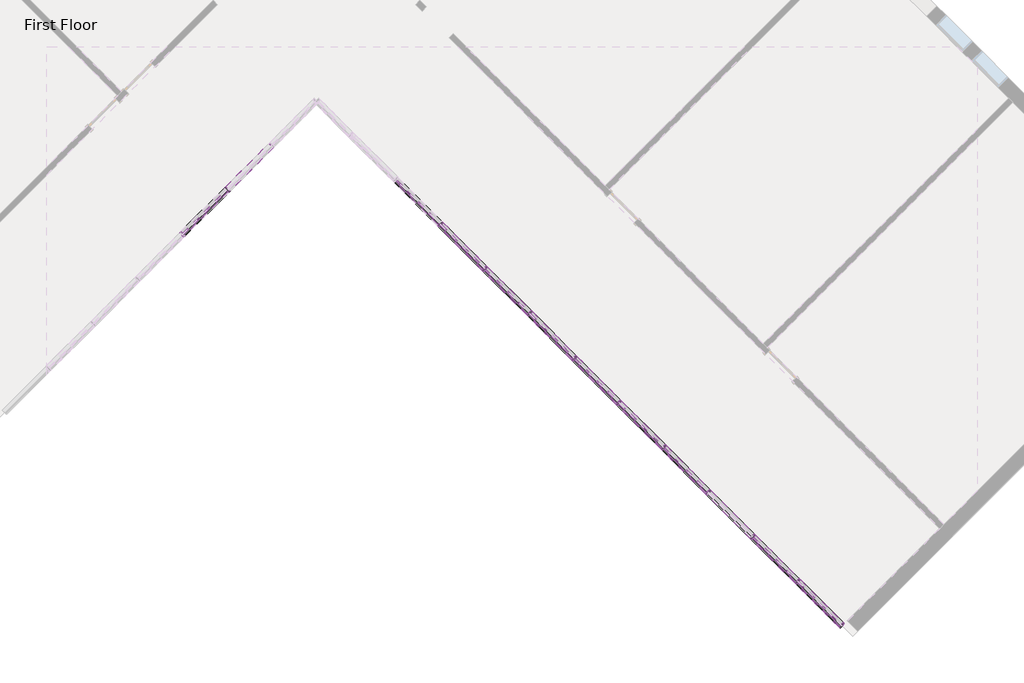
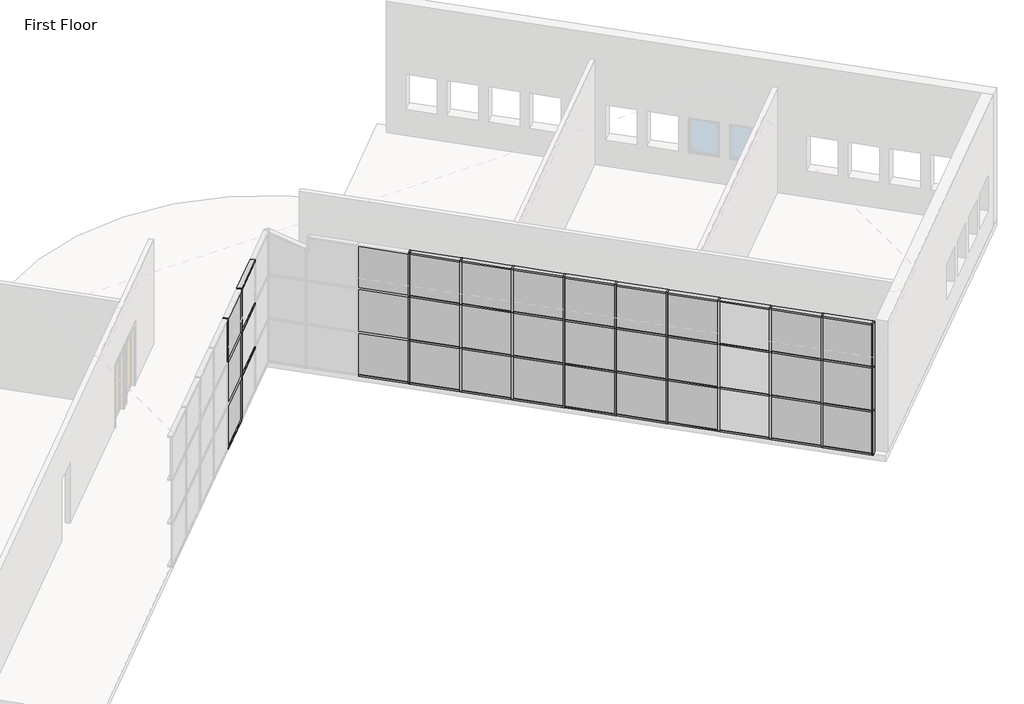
# One storey, part 2 of 4: 75 members, 30 plates.
"""IFC4 building model written with IfcOpenShell, lengths in millimetres."""

from ifc_helpers import new_model, si_unit, origin, place, context, project, spatial, transform, mapped, element, save
from components import rectangular_mullion_50_x_150mm_20f04808, rectangular_mullion_50_x_150mm_40297ad3, rectangular_mullion_50_x_150mm_25842354, rectangular_mullion_50_x_150mm_f494fff1, rectangular_mullion_50_x_150mm_5da8f88f, rectangular_mullion_50_x_150mm_4d330a12, system_panel_glazed_3c3c243d, system_panel_glazed_a417ca2b, system_panel_glazed_437d720c, system_panel_glazed_7c4ff273, system_panel_solid_49e066f7, system_panel_solid_a570f427

model = new_model("IFC4")

# Units and contexts
model_context = context("Model", 3, world=origin())
ifc_project = project(units=[si_unit("LENGTHUNIT", "METRE", prefix="MILLI")], contexts=[model_context])

# Site, building, storey
site = spatial("IfcSite", under=ifc_project)
building = spatial("IfcBuilding", under=site)
storey = spatial("IfcBuildingStorey", under=building, Name="First Floor", Elevation=0.0)

# Members
placement = place(None, origin())
rectangular_mullion_50_x_150mm_shape = rectangular_mullion_50_x_150mm_20f04808(model_context)
element("IfcMember", 1, ObjectType="Rectangular Mullion : 50 x 150mm", at=placement, inside=storey, context=model_context, shape_type="MappedRepresentation", body=[
    mapped(rectangular_mullion_50_x_150mm_shape, transform((11047.480406, -10654.0737858, 0.0), x_axis=(0.0, 0.0, -1.0), y_axis=(0.7071067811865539, 0.7071067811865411, 0.0), z_axis=(0.7071067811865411, -0.7071067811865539, 0.0))),
])
rectangular_mullion_50_x_150mm_2_shape = rectangular_mullion_50_x_150mm_40297ad3(model_context)
element("IfcMember", 2, ObjectType="Rectangular Mullion : 50 x 150mm", at=placement, inside=storey, context=model_context, shape_type="MappedRepresentation", body=[
    mapped(rectangular_mullion_50_x_150mm_2_shape, transform((-3756.5071652, -160.6091532, 0.0), x_axis=(-0.7071067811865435, -0.7071067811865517, 0.0), y_axis=(-0.7071067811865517, 0.7071067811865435, 0.0), z_axis=(0.0, 0.0, -1.0))),
])
element("IfcMember", 3, ObjectType="Rectangular Mullion : 50 x 150mm", at=placement, inside=storey, context=model_context, shape_type="MappedRepresentation", body=[
    mapped(rectangular_mullion_50_x_150mm_2_shape, transform((10005.2050103, -9611.7983901, 0.0), x_axis=(-0.7071067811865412, 0.7071067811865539, 0.0), y_axis=(0.7071067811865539, 0.7071067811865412, 0.0), z_axis=(0.0, 0.0, -1.0))),
])
element("IfcMember", 4, ObjectType="Rectangular Mullion : 50 x 150mm", at=placement, inside=storey, context=model_context, shape_type="MappedRepresentation", body=[
    mapped(rectangular_mullion_50_x_150mm_2_shape, transform((8927.5742757, -8534.1676556, 0.0), x_axis=(-0.7071067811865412, 0.7071067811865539, 0.0), y_axis=(0.7071067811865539, 0.7071067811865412, 0.0), z_axis=(0.0, 0.0, -1.0))),
])
element("IfcMember", 5, ObjectType="Rectangular Mullion : 50 x 150mm", at=placement, inside=storey, context=model_context, shape_type="MappedRepresentation", body=[
    mapped(rectangular_mullion_50_x_150mm_2_shape, transform((7849.9435412, -7456.536921, 0.0), x_axis=(-0.7071067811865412, 0.7071067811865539, 0.0), y_axis=(0.7071067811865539, 0.7071067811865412, 0.0), z_axis=(0.0, 0.0, -1.0))),
])
element("IfcMember", 6, ObjectType="Rectangular Mullion : 50 x 150mm", at=placement, inside=storey, context=model_context, shape_type="MappedRepresentation", body=[
    mapped(rectangular_mullion_50_x_150mm_2_shape, transform((6772.3128067, -6378.9061865, 0.0), x_axis=(-0.7071067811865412, 0.7071067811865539, 0.0), y_axis=(0.7071067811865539, 0.7071067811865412, 0.0), z_axis=(0.0, 0.0, -1.0))),
])
element("IfcMember", 7, ObjectType="Rectangular Mullion : 50 x 150mm", at=placement, inside=storey, context=model_context, shape_type="MappedRepresentation", body=[
    mapped(rectangular_mullion_50_x_150mm_2_shape, transform((5694.6820722, -5301.275452, 0.0), x_axis=(-0.7071067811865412, 0.7071067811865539, 0.0), y_axis=(0.7071067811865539, 0.7071067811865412, 0.0), z_axis=(0.0, 0.0, -1.0))),
])
element("IfcMember", 8, ObjectType="Rectangular Mullion : 50 x 150mm", at=placement, inside=storey, context=model_context, shape_type="MappedRepresentation", body=[
    mapped(rectangular_mullion_50_x_150mm_2_shape, transform((4617.0513376, -4223.6447175, 0.0), x_axis=(-0.7071067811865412, 0.7071067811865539, 0.0), y_axis=(0.7071067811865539, 0.7071067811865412, 0.0), z_axis=(0.0, 0.0, -1.0))),
])
element("IfcMember", 9, ObjectType="Rectangular Mullion : 50 x 150mm", at=placement, inside=storey, context=model_context, shape_type="MappedRepresentation", body=[
    mapped(rectangular_mullion_50_x_150mm_2_shape, transform((3539.4206031, -3146.0139829, 0.0), x_axis=(-0.7071067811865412, 0.7071067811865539, 0.0), y_axis=(0.7071067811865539, 0.7071067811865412, 0.0), z_axis=(0.0, 0.0, -1.0))),
])
element("IfcMember", 10, ObjectType="Rectangular Mullion : 50 x 150mm", at=placement, inside=storey, context=model_context, shape_type="MappedRepresentation", body=[
    mapped(rectangular_mullion_50_x_150mm_2_shape, transform((2461.7898686, -2068.3832484, 0.0), x_axis=(-0.7071067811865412, 0.7071067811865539, 0.0), y_axis=(0.7071067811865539, 0.7071067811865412, 0.0), z_axis=(0.0, 0.0, -1.0))),
])
element("IfcMember", 11, ObjectType="Rectangular Mullion : 50 x 150mm", at=placement, inside=storey, context=model_context, shape_type="MappedRepresentation", body=[
    mapped(rectangular_mullion_50_x_150mm_2_shape, transform((1384.159134, -990.7525139, 0.0), x_axis=(-0.7071067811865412, 0.7071067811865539, 0.0), y_axis=(0.7071067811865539, 0.7071067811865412, 0.0), z_axis=(0.0, 0.0, -1.0))),
])
rectangular_mullion_50_x_150mm_3_shape = rectangular_mullion_50_x_150mm_25842354(model_context)
element("IfcMember", 12, ObjectType="Rectangular Mullion : 50 x 150mm", at=placement, inside=storey, context=model_context, shape_type="MappedRepresentation", body=[
    mapped(rectangular_mullion_50_x_150mm_3_shape, transform((10022.8826798, -9629.4760596, 1524.0), x_axis=(0.0, 0.0, 1.0), y_axis=(0.7071067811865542, 0.7071067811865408, 0.0), z_axis=(-0.7071067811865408, 0.7071067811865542, 0.0))),
])
element("IfcMember", 13, ObjectType="Rectangular Mullion : 50 x 150mm", at=placement, inside=storey, context=model_context, shape_type="MappedRepresentation", body=[
    mapped(rectangular_mullion_50_x_150mm_3_shape, transform((10022.8826798, -9629.4760596, 3048.0), x_axis=(0.0, 0.0, 1.0), y_axis=(0.7071067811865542, 0.7071067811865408, 0.0), z_axis=(-0.7071067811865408, 0.7071067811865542, 0.0))),
])
rectangular_mullion_50_x_150mm_4_shape = rectangular_mullion_50_x_150mm_f494fff1(model_context)
element("IfcMember", 14, ObjectType="Rectangular Mullion : 50 x 150mm", at=placement, inside=storey, context=model_context, shape_type="MappedRepresentation", body=[
    mapped(rectangular_mullion_50_x_150mm_4_shape, transform((-3738.8294957, -142.9314837, 1524.0), x_axis=(0.0, 0.0, 1.0), y_axis=(-0.7071067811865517, 0.7071067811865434, 0.0), z_axis=(-0.7071067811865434, -0.7071067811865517, 0.0))),
])
element("IfcMember", 15, ObjectType="Rectangular Mullion : 50 x 150mm", at=placement, inside=storey, context=model_context, shape_type="MappedRepresentation", body=[
    mapped(rectangular_mullion_50_x_150mm_4_shape, transform((-3738.8294957, -142.9314837, 3048.0), x_axis=(0.0, 0.0, 1.0), y_axis=(-0.7071067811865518, 0.7071067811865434, 0.0), z_axis=(-0.7071067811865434, -0.7071067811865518, 0.0))),
])
element("IfcMember", 16, ObjectType="Rectangular Mullion : 50 x 150mm", at=placement, inside=storey, context=model_context, shape_type="MappedRepresentation", body=[
    mapped(rectangular_mullion_50_x_150mm_4_shape, transform((8945.2519453, -8551.8453251, 1524.0), x_axis=(0.0, 0.0, 1.0), y_axis=(0.7071067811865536, 0.7071067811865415, 0.0), z_axis=(-0.7071067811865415, 0.7071067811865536, 0.0))),
])
element("IfcMember", 17, ObjectType="Rectangular Mullion : 50 x 150mm", at=placement, inside=storey, context=model_context, shape_type="MappedRepresentation", body=[
    mapped(rectangular_mullion_50_x_150mm_4_shape, transform((7867.6212107, -7474.2145906, 1524.0), x_axis=(0.0, 0.0, 1.0), y_axis=(0.7071067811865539, 0.7071067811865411, 0.0), z_axis=(-0.7071067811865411, 0.7071067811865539, 0.0))),
])
element("IfcMember", 18, ObjectType="Rectangular Mullion : 50 x 150mm", at=placement, inside=storey, context=model_context, shape_type="MappedRepresentation", body=[
    mapped(rectangular_mullion_50_x_150mm_4_shape, transform((6789.9904762, -6396.5838561, 1524.0), x_axis=(0.0, 0.0, 1.0), y_axis=(0.7071067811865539, 0.7071067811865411, 0.0), z_axis=(-0.7071067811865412, 0.707106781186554, 0.0))),
])
element("IfcMember", 19, ObjectType="Rectangular Mullion : 50 x 150mm", at=placement, inside=storey, context=model_context, shape_type="MappedRepresentation", body=[
    mapped(rectangular_mullion_50_x_150mm_4_shape, transform((5712.3597417, -5318.9531215, 1524.0), x_axis=(0.0, 0.0, 1.0), y_axis=(0.7071067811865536, 0.7071067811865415, 0.0), z_axis=(-0.7071067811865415, 0.7071067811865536, 0.0))),
])
element("IfcMember", 20, ObjectType="Rectangular Mullion : 50 x 150mm", at=placement, inside=storey, context=model_context, shape_type="MappedRepresentation", body=[
    mapped(rectangular_mullion_50_x_150mm_4_shape, transform((4634.7290072, -4241.322387, 1524.0), x_axis=(0.0, 0.0, 1.0), y_axis=(0.7071067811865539, 0.7071067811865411, 0.0), z_axis=(-0.7071067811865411, 0.7071067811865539, 0.0))),
])
element("IfcMember", 21, ObjectType="Rectangular Mullion : 50 x 150mm", at=placement, inside=storey, context=model_context, shape_type="MappedRepresentation", body=[
    mapped(rectangular_mullion_50_x_150mm_4_shape, transform((3557.0982726, -3163.6916525, 1524.0), x_axis=(0.0, 0.0, 1.0), y_axis=(0.7071067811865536, 0.7071067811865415, 0.0), z_axis=(-0.7071067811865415, 0.7071067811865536, 0.0))),
])
element("IfcMember", 22, ObjectType="Rectangular Mullion : 50 x 150mm", at=placement, inside=storey, context=model_context, shape_type="MappedRepresentation", body=[
    mapped(rectangular_mullion_50_x_150mm_4_shape, transform((2479.4675381, -2086.0609179, 1524.0), x_axis=(0.0, 0.0, 1.0), y_axis=(0.7071067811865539, 0.7071067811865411, 0.0), z_axis=(-0.7071067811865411, 0.7071067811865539, 0.0))),
])
element("IfcMember", 23, ObjectType="Rectangular Mullion : 50 x 150mm", at=placement, inside=storey, context=model_context, shape_type="MappedRepresentation", body=[
    mapped(rectangular_mullion_50_x_150mm_4_shape, transform((1401.8368036, -1008.4301834, 1524.0), x_axis=(0.0, 0.0, 1.0), y_axis=(0.7071067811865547, 0.7071067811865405, 0.0), z_axis=(-0.7071067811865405, 0.7071067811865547, 0.0))),
])
element("IfcMember", 24, ObjectType="Rectangular Mullion : 50 x 150mm", at=placement, inside=storey, context=model_context, shape_type="MappedRepresentation", body=[
    mapped(rectangular_mullion_50_x_150mm_4_shape, transform((8945.2519453, -8551.8453251, 3048.0), x_axis=(0.0, 0.0, 1.0), y_axis=(0.7071067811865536, 0.7071067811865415, 0.0), z_axis=(-0.7071067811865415, 0.7071067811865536, 0.0))),
])
element("IfcMember", 25, ObjectType="Rectangular Mullion : 50 x 150mm", at=placement, inside=storey, context=model_context, shape_type="MappedRepresentation", body=[
    mapped(rectangular_mullion_50_x_150mm_4_shape, transform((7867.6212107, -7474.2145906, 3048.0), x_axis=(0.0, 0.0, 1.0), y_axis=(0.7071067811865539, 0.7071067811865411, 0.0), z_axis=(-0.7071067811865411, 0.7071067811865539, 0.0))),
])
element("IfcMember", 26, ObjectType="Rectangular Mullion : 50 x 150mm", at=placement, inside=storey, context=model_context, shape_type="MappedRepresentation", body=[
    mapped(rectangular_mullion_50_x_150mm_4_shape, transform((6789.9904762, -6396.5838561, 3048.0), x_axis=(0.0, 0.0, 1.0), y_axis=(0.7071067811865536, 0.7071067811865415, 0.0), z_axis=(-0.7071067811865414, 0.7071067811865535, 0.0))),
])
element("IfcMember", 27, ObjectType="Rectangular Mullion : 50 x 150mm", at=placement, inside=storey, context=model_context, shape_type="MappedRepresentation", body=[
    mapped(rectangular_mullion_50_x_150mm_4_shape, transform((5712.3597417, -5318.9531215, 3048.0), x_axis=(0.0, 0.0, 1.0), y_axis=(0.7071067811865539, 0.7071067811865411, 0.0), z_axis=(-0.7071067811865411, 0.7071067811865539, 0.0))),
])
element("IfcMember", 28, ObjectType="Rectangular Mullion : 50 x 150mm", at=placement, inside=storey, context=model_context, shape_type="MappedRepresentation", body=[
    mapped(rectangular_mullion_50_x_150mm_4_shape, transform((4634.7290072, -4241.322387, 3048.0), x_axis=(0.0, 0.0, 1.0), y_axis=(0.7071067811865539, 0.7071067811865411, 0.0), z_axis=(-0.7071067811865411, 0.7071067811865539, 0.0))),
])
element("IfcMember", 29, ObjectType="Rectangular Mullion : 50 x 150mm", at=placement, inside=storey, context=model_context, shape_type="MappedRepresentation", body=[
    mapped(rectangular_mullion_50_x_150mm_4_shape, transform((3557.0982726, -3163.6916525, 3048.0), x_axis=(0.0, 0.0, 1.0), y_axis=(0.7071067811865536, 0.7071067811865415, 0.0), z_axis=(-0.7071067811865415, 0.7071067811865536, 0.0))),
])
element("IfcMember", 30, ObjectType="Rectangular Mullion : 50 x 150mm", at=placement, inside=storey, context=model_context, shape_type="MappedRepresentation", body=[
    mapped(rectangular_mullion_50_x_150mm_4_shape, transform((2479.4675381, -2086.0609179, 3048.0), x_axis=(0.0, 0.0, 1.0), y_axis=(0.7071067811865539, 0.7071067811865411, 0.0), z_axis=(-0.7071067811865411, 0.7071067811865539, 0.0))),
])
element("IfcMember", 31, ObjectType="Rectangular Mullion : 50 x 150mm", at=placement, inside=storey, context=model_context, shape_type="MappedRepresentation", body=[
    mapped(rectangular_mullion_50_x_150mm_4_shape, transform((1401.8368036, -1008.4301834, 3048.0), x_axis=(0.0, 0.0, 1.0), y_axis=(0.7071067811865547, 0.7071067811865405, 0.0), z_axis=(-0.7071067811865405, 0.7071067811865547, 0.0))),
])
rectangular_mullion_50_x_150mm_5_shape = rectangular_mullion_50_x_150mm_5da8f88f(model_context)
element("IfcMember", 32, ObjectType="Rectangular Mullion : 50 x 150mm", at=placement, inside=storey, context=model_context, shape_type="MappedRepresentation", body=[
    mapped(rectangular_mullion_50_x_150mm_5_shape, transform((-3774.1848347, -178.2868227, 0.0), x_axis=(0.0, 0.0, -1.0), y_axis=(-0.7071067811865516, 0.7071067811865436, 0.0), z_axis=(0.7071067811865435, 0.7071067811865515, 0.0))),
])
element("IfcMember", 33, ObjectType="Rectangular Mullion : 50 x 150mm", at=placement, inside=storey, context=model_context, shape_type="MappedRepresentation", body=[
    mapped(rectangular_mullion_50_x_150mm_5_shape, transform((9987.5273407, -9594.1207206, 0.0), x_axis=(0.0, 0.0, -1.0), y_axis=(0.7071067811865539, 0.7071067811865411, 0.0), z_axis=(0.7071067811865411, -0.7071067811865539, 0.0))),
])
element("IfcMember", 34, ObjectType="Rectangular Mullion : 50 x 150mm", at=placement, inside=storey, context=model_context, shape_type="MappedRepresentation", body=[
    mapped(rectangular_mullion_50_x_150mm_5_shape, transform((8909.8966062, -8516.489986, 0.0), x_axis=(0.0, 0.0, -1.0), y_axis=(0.7071067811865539, 0.7071067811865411, 0.0), z_axis=(0.7071067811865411, -0.7071067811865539, 0.0))),
])
element("IfcMember", 35, ObjectType="Rectangular Mullion : 50 x 150mm", at=placement, inside=storey, context=model_context, shape_type="MappedRepresentation", body=[
    mapped(rectangular_mullion_50_x_150mm_5_shape, transform((7832.2658717, -7438.8592515, 0.0), x_axis=(0.0, 0.0, -1.0), y_axis=(0.7071067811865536, 0.7071067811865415, 0.0), z_axis=(0.7071067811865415, -0.7071067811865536, 0.0))),
])
element("IfcMember", 36, ObjectType="Rectangular Mullion : 50 x 150mm", at=placement, inside=storey, context=model_context, shape_type="MappedRepresentation", body=[
    mapped(rectangular_mullion_50_x_150mm_5_shape, transform((6754.6351372, -6361.228517, 0.0), x_axis=(0.0, 0.0, -1.0), y_axis=(0.7071067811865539, 0.7071067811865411, 0.0), z_axis=(0.7071067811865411, -0.7071067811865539, 0.0))),
])
element("IfcMember", 37, ObjectType="Rectangular Mullion : 50 x 150mm", at=placement, inside=storey, context=model_context, shape_type="MappedRepresentation", body=[
    mapped(rectangular_mullion_50_x_150mm_5_shape, transform((5677.0044026, -5283.5977825, 0.0), x_axis=(0.0, 0.0, -1.0), y_axis=(0.7071067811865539, 0.7071067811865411, 0.0), z_axis=(0.7071067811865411, -0.7071067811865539, 0.0))),
])
element("IfcMember", 38, ObjectType="Rectangular Mullion : 50 x 150mm", at=placement, inside=storey, context=model_context, shape_type="MappedRepresentation", body=[
    mapped(rectangular_mullion_50_x_150mm_5_shape, transform((4599.3736681, -4205.9670479, 0.0), x_axis=(0.0, 0.0, -1.0), y_axis=(0.7071067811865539, 0.7071067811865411, 0.0), z_axis=(0.7071067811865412, -0.707106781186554, 0.0))),
])
element("IfcMember", 39, ObjectType="Rectangular Mullion : 50 x 150mm", at=placement, inside=storey, context=model_context, shape_type="MappedRepresentation", body=[
    mapped(rectangular_mullion_50_x_150mm_5_shape, transform((3521.7429336, -3128.3363134, 0.0), x_axis=(0.0, 0.0, -1.0), y_axis=(0.7071067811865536, 0.7071067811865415, 0.0), z_axis=(0.7071067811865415, -0.7071067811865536, 0.0))),
])
element("IfcMember", 40, ObjectType="Rectangular Mullion : 50 x 150mm", at=placement, inside=storey, context=model_context, shape_type="MappedRepresentation", body=[
    mapped(rectangular_mullion_50_x_150mm_5_shape, transform((2444.112199, -2050.7055789, 0.0), x_axis=(0.0, 0.0, -1.0), y_axis=(0.7071067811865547, 0.7071067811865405, 0.0), z_axis=(0.7071067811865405, -0.7071067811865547, 0.0))),
])
element("IfcMember", 41, ObjectType="Rectangular Mullion : 50 x 150mm", at=placement, inside=storey, context=model_context, shape_type="MappedRepresentation", body=[
    mapped(rectangular_mullion_50_x_150mm_5_shape, transform((1366.4814645, -973.0748443, 0.0), x_axis=(0.0, 0.0, -1.0), y_axis=(0.7071067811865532, 0.7071067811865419, 0.0), z_axis=(0.7071067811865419, -0.7071067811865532, 0.0))),
])
element("IfcMember", 42, ObjectType="Rectangular Mullion : 50 x 150mm", at=placement, inside=storey, context=model_context, shape_type="MappedRepresentation", body=[
    mapped(rectangular_mullion_50_x_150mm_shape, transform((10022.8826798, -9629.4760596, 4572.0), x_axis=(0.0, 0.0, 1.0), y_axis=(0.7071067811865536, 0.7071067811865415, 0.0), z_axis=(-0.7071067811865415, 0.7071067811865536, 0.0))),
])
element("IfcMember", 43, ObjectType="Rectangular Mullion : 50 x 150mm", at=placement, inside=storey, context=model_context, shape_type="MappedRepresentation", body=[
    mapped(rectangular_mullion_50_x_150mm_5_shape, transform((-3738.8294957, -142.9314837, 4572.0), x_axis=(0.0, 0.0, 1.0), y_axis=(-0.7071067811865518, 0.7071067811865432, 0.0), z_axis=(-0.7071067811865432, -0.7071067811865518, 0.0))),
])
element("IfcMember", 44, ObjectType="Rectangular Mullion : 50 x 150mm", at=placement, inside=storey, context=model_context, shape_type="MappedRepresentation", body=[
    mapped(rectangular_mullion_50_x_150mm_5_shape, transform((8945.2519453, -8551.8453251, 4572.0), x_axis=(0.0, 0.0, 1.0), y_axis=(0.7071067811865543, 0.7071067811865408, 0.0), z_axis=(-0.7071067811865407, 0.7071067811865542, 0.0))),
])
element("IfcMember", 45, ObjectType="Rectangular Mullion : 50 x 150mm", at=placement, inside=storey, context=model_context, shape_type="MappedRepresentation", body=[
    mapped(rectangular_mullion_50_x_150mm_5_shape, transform((7867.6212107, -7474.2145906, 4572.0), x_axis=(0.0, 0.0, 1.0), y_axis=(0.7071067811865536, 0.7071067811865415, 0.0), z_axis=(-0.7071067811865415, 0.7071067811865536, 0.0))),
])
element("IfcMember", 46, ObjectType="Rectangular Mullion : 50 x 150mm", at=placement, inside=storey, context=model_context, shape_type="MappedRepresentation", body=[
    mapped(rectangular_mullion_50_x_150mm_5_shape, transform((6789.9904762, -6396.5838561, 4572.0), x_axis=(0.0, 0.0, 1.0), y_axis=(0.7071067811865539, 0.7071067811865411, 0.0), z_axis=(-0.7071067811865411, 0.7071067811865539, 0.0))),
])
element("IfcMember", 47, ObjectType="Rectangular Mullion : 50 x 150mm", at=placement, inside=storey, context=model_context, shape_type="MappedRepresentation", body=[
    mapped(rectangular_mullion_50_x_150mm_5_shape, transform((5712.3597417, -5318.9531215, 4572.0), x_axis=(0.0, 0.0, 1.0), y_axis=(0.7071067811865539, 0.7071067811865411, 0.0), z_axis=(-0.7071067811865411, 0.7071067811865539, 0.0))),
])
element("IfcMember", 48, ObjectType="Rectangular Mullion : 50 x 150mm", at=placement, inside=storey, context=model_context, shape_type="MappedRepresentation", body=[
    mapped(rectangular_mullion_50_x_150mm_5_shape, transform((4634.7290072, -4241.322387, 4572.0), x_axis=(0.0, 0.0, 1.0), y_axis=(0.7071067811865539, 0.7071067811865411, 0.0), z_axis=(-0.7071067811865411, 0.7071067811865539, 0.0))),
])
element("IfcMember", 49, ObjectType="Rectangular Mullion : 50 x 150mm", at=placement, inside=storey, context=model_context, shape_type="MappedRepresentation", body=[
    mapped(rectangular_mullion_50_x_150mm_5_shape, transform((3557.0982726, -3163.6916525, 4572.0), x_axis=(0.0, 0.0, 1.0), y_axis=(0.7071067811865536, 0.7071067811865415, 0.0), z_axis=(-0.7071067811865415, 0.7071067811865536, 0.0))),
])
element("IfcMember", 50, ObjectType="Rectangular Mullion : 50 x 150mm", at=placement, inside=storey, context=model_context, shape_type="MappedRepresentation", body=[
    mapped(rectangular_mullion_50_x_150mm_5_shape, transform((2479.4675381, -2086.0609179, 4572.0), x_axis=(0.0, 0.0, 1.0), y_axis=(0.7071067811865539, 0.7071067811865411, 0.0), z_axis=(-0.7071067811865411, 0.7071067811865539, 0.0))),
])
element("IfcMember", 51, ObjectType="Rectangular Mullion : 50 x 150mm", at=placement, inside=storey, context=model_context, shape_type="MappedRepresentation", body=[
    mapped(rectangular_mullion_50_x_150mm_5_shape, transform((1401.8368036, -1008.4301834, 4572.0), x_axis=(0.0, 0.0, 1.0), y_axis=(0.7071067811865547, 0.7071067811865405, 0.0), z_axis=(-0.7071067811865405, 0.7071067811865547, 0.0))),
])
element("IfcMember", 52, ObjectType="Rectangular Mullion : 50 x 150mm", at=placement, inside=storey, context=model_context, shape_type="MappedRepresentation", body=[
    mapped(rectangular_mullion_50_x_150mm_2_shape, transform((-3756.5071652, -160.6091532, 1524.0), x_axis=(-0.7071067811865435, -0.7071067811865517, 0.0), y_axis=(-0.7071067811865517, 0.7071067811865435, 0.0), z_axis=(0.0, 0.0, -1.0))),
])
element("IfcMember", 53, ObjectType="Rectangular Mullion : 50 x 150mm", at=placement, inside=storey, context=model_context, shape_type="MappedRepresentation", body=[
    mapped(rectangular_mullion_50_x_150mm_2_shape, transform((10005.2050103, -9611.7983901, 1524.0), x_axis=(-0.7071067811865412, 0.7071067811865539, 0.0), y_axis=(0.7071067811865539, 0.7071067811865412, 0.0), z_axis=(0.0, 0.0, -1.0))),
])
element("IfcMember", 54, ObjectType="Rectangular Mullion : 50 x 150mm", at=placement, inside=storey, context=model_context, shape_type="MappedRepresentation", body=[
    mapped(rectangular_mullion_50_x_150mm_2_shape, transform((8927.5742757, -8534.1676556, 1524.0), x_axis=(-0.7071067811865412, 0.7071067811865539, 0.0), y_axis=(0.7071067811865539, 0.7071067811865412, 0.0), z_axis=(0.0, 0.0, -1.0))),
])
element("IfcMember", 55, ObjectType="Rectangular Mullion : 50 x 150mm", at=placement, inside=storey, context=model_context, shape_type="MappedRepresentation", body=[
    mapped(rectangular_mullion_50_x_150mm_2_shape, transform((7849.9435412, -7456.536921, 1524.0), x_axis=(-0.7071067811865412, 0.7071067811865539, 0.0), y_axis=(0.7071067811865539, 0.7071067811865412, 0.0), z_axis=(0.0, 0.0, -1.0))),
])
element("IfcMember", 56, ObjectType="Rectangular Mullion : 50 x 150mm", at=placement, inside=storey, context=model_context, shape_type="MappedRepresentation", body=[
    mapped(rectangular_mullion_50_x_150mm_2_shape, transform((6772.3128067, -6378.9061865, 1524.0), x_axis=(-0.7071067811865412, 0.7071067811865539, 0.0), y_axis=(0.7071067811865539, 0.7071067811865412, 0.0), z_axis=(0.0, 0.0, -1.0))),
])
element("IfcMember", 57, ObjectType="Rectangular Mullion : 50 x 150mm", at=placement, inside=storey, context=model_context, shape_type="MappedRepresentation", body=[
    mapped(rectangular_mullion_50_x_150mm_2_shape, transform((5694.6820722, -5301.275452, 1524.0), x_axis=(-0.7071067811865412, 0.7071067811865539, 0.0), y_axis=(0.7071067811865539, 0.7071067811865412, 0.0), z_axis=(0.0, 0.0, -1.0))),
])
element("IfcMember", 58, ObjectType="Rectangular Mullion : 50 x 150mm", at=placement, inside=storey, context=model_context, shape_type="MappedRepresentation", body=[
    mapped(rectangular_mullion_50_x_150mm_2_shape, transform((4617.0513376, -4223.6447175, 1524.0), x_axis=(-0.7071067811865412, 0.7071067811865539, 0.0), y_axis=(0.7071067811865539, 0.7071067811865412, 0.0), z_axis=(0.0, 0.0, -1.0))),
])
element("IfcMember", 59, ObjectType="Rectangular Mullion : 50 x 150mm", at=placement, inside=storey, context=model_context, shape_type="MappedRepresentation", body=[
    mapped(rectangular_mullion_50_x_150mm_2_shape, transform((3539.4206031, -3146.0139829, 1524.0), x_axis=(-0.7071067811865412, 0.7071067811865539, 0.0), y_axis=(0.7071067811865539, 0.7071067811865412, 0.0), z_axis=(0.0, 0.0, -1.0))),
])
element("IfcMember", 60, ObjectType="Rectangular Mullion : 50 x 150mm", at=placement, inside=storey, context=model_context, shape_type="MappedRepresentation", body=[
    mapped(rectangular_mullion_50_x_150mm_2_shape, transform((2461.7898686, -2068.3832484, 1524.0), x_axis=(-0.7071067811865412, 0.7071067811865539, 0.0), y_axis=(0.7071067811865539, 0.7071067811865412, 0.0), z_axis=(0.0, 0.0, -1.0))),
])
element("IfcMember", 61, ObjectType="Rectangular Mullion : 50 x 150mm", at=placement, inside=storey, context=model_context, shape_type="MappedRepresentation", body=[
    mapped(rectangular_mullion_50_x_150mm_2_shape, transform((1384.159134, -990.7525139, 1524.0), x_axis=(-0.7071067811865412, 0.7071067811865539, 0.0), y_axis=(0.7071067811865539, 0.7071067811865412, 0.0), z_axis=(0.0, 0.0, -1.0))),
])
element("IfcMember", 62, ObjectType="Rectangular Mullion : 50 x 150mm", at=placement, inside=storey, context=model_context, shape_type="MappedRepresentation", body=[
    mapped(rectangular_mullion_50_x_150mm_2_shape, transform((-3756.5071652, -160.6091532, 3048.0), x_axis=(-0.7071067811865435, -0.7071067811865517, 0.0), y_axis=(-0.7071067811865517, 0.7071067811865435, 0.0), z_axis=(0.0, 0.0, -1.0))),
])
element("IfcMember", 63, ObjectType="Rectangular Mullion : 50 x 150mm", at=placement, inside=storey, context=model_context, shape_type="MappedRepresentation", body=[
    mapped(rectangular_mullion_50_x_150mm_2_shape, transform((-4834.1378997, -1238.2398877, 3048.0), x_axis=(-0.7071067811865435, -0.7071067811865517, 0.0), y_axis=(-0.7071067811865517, 0.7071067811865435, 0.0), z_axis=(0.0, 0.0, -1.0))),
])
element("IfcMember", 64, ObjectType="Rectangular Mullion : 50 x 150mm", at=placement, inside=storey, context=model_context, shape_type="MappedRepresentation", body=[
    mapped(rectangular_mullion_50_x_150mm_2_shape, transform((10005.2050103, -9611.7983901, 3048.0), x_axis=(-0.7071067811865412, 0.7071067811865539, 0.0), y_axis=(0.7071067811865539, 0.7071067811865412, 0.0), z_axis=(0.0, 0.0, -1.0))),
])
element("IfcMember", 65, ObjectType="Rectangular Mullion : 50 x 150mm", at=placement, inside=storey, context=model_context, shape_type="MappedRepresentation", body=[
    mapped(rectangular_mullion_50_x_150mm_2_shape, transform((8927.5742757, -8534.1676556, 3048.0), x_axis=(-0.7071067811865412, 0.7071067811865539, 0.0), y_axis=(0.7071067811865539, 0.7071067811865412, 0.0), z_axis=(0.0, 0.0, -1.0))),
])
element("IfcMember", 66, ObjectType="Rectangular Mullion : 50 x 150mm", at=placement, inside=storey, context=model_context, shape_type="MappedRepresentation", body=[
    mapped(rectangular_mullion_50_x_150mm_2_shape, transform((7849.9435412, -7456.536921, 3048.0), x_axis=(-0.7071067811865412, 0.7071067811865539, 0.0), y_axis=(0.7071067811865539, 0.7071067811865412, 0.0), z_axis=(0.0, 0.0, -1.0))),
])
element("IfcMember", 67, ObjectType="Rectangular Mullion : 50 x 150mm", at=placement, inside=storey, context=model_context, shape_type="MappedRepresentation", body=[
    mapped(rectangular_mullion_50_x_150mm_2_shape, transform((6772.3128067, -6378.9061865, 3048.0), x_axis=(-0.7071067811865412, 0.7071067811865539, 0.0), y_axis=(0.7071067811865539, 0.7071067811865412, 0.0), z_axis=(0.0, 0.0, -1.0))),
])
element("IfcMember", 68, ObjectType="Rectangular Mullion : 50 x 150mm", at=placement, inside=storey, context=model_context, shape_type="MappedRepresentation", body=[
    mapped(rectangular_mullion_50_x_150mm_2_shape, transform((5694.6820722, -5301.275452, 3048.0), x_axis=(-0.7071067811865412, 0.7071067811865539, 0.0), y_axis=(0.7071067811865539, 0.7071067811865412, 0.0), z_axis=(0.0, 0.0, -1.0))),
])
element("IfcMember", 69, ObjectType="Rectangular Mullion : 50 x 150mm", at=placement, inside=storey, context=model_context, shape_type="MappedRepresentation", body=[
    mapped(rectangular_mullion_50_x_150mm_2_shape, transform((4617.0513376, -4223.6447175, 3048.0), x_axis=(-0.7071067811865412, 0.7071067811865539, 0.0), y_axis=(0.7071067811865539, 0.7071067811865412, 0.0), z_axis=(0.0, 0.0, -1.0))),
])
element("IfcMember", 70, ObjectType="Rectangular Mullion : 50 x 150mm", at=placement, inside=storey, context=model_context, shape_type="MappedRepresentation", body=[
    mapped(rectangular_mullion_50_x_150mm_2_shape, transform((3539.4206031, -3146.0139829, 3048.0), x_axis=(-0.7071067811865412, 0.7071067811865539, 0.0), y_axis=(0.7071067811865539, 0.7071067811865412, 0.0), z_axis=(0.0, 0.0, -1.0))),
])
element("IfcMember", 71, ObjectType="Rectangular Mullion : 50 x 150mm", at=placement, inside=storey, context=model_context, shape_type="MappedRepresentation", body=[
    mapped(rectangular_mullion_50_x_150mm_2_shape, transform((2461.7898686, -2068.3832484, 3048.0), x_axis=(-0.7071067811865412, 0.7071067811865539, 0.0), y_axis=(0.7071067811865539, 0.7071067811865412, 0.0), z_axis=(0.0, 0.0, -1.0))),
])
element("IfcMember", 72, ObjectType="Rectangular Mullion : 50 x 150mm", at=placement, inside=storey, context=model_context, shape_type="MappedRepresentation", body=[
    mapped(rectangular_mullion_50_x_150mm_2_shape, transform((1384.159134, -990.7525139, 3048.0), x_axis=(-0.7071067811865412, 0.7071067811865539, 0.0), y_axis=(0.7071067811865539, 0.7071067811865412, 0.0), z_axis=(0.0, 0.0, -1.0))),
])
rectangular_mullion_50_x_150mm_6_shape = rectangular_mullion_50_x_150mm_4d330a12(model_context)
element("IfcMember", 73, ObjectType="Rectangular Mullion : 50 x 150mm", at=placement, inside=storey, context=model_context, shape_type="MappedRepresentation", body=[
    mapped(rectangular_mullion_50_x_150mm_6_shape, transform((11082.835745, -10689.4291248, 4572.0), x_axis=(0.7071067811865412, -0.7071067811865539, 0.0), y_axis=(0.7071067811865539, 0.7071067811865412, 0.0), z_axis=(0.0, 0.0, 1.0))),
])
element("IfcMember", 74, ObjectType="Rectangular Mullion : 50 x 150mm", at=placement, inside=storey, context=model_context, shape_type="MappedRepresentation", body=[
    mapped(rectangular_mullion_50_x_150mm_6_shape, transform((11082.835745, -10689.4291248, 1524.0), x_axis=(0.7071067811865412, -0.7071067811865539, 0.0), y_axis=(0.7071067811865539, 0.7071067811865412, 0.0), z_axis=(0.0, 0.0, 1.0))),
])
element("IfcMember", 75, ObjectType="Rectangular Mullion : 50 x 150mm", at=placement, inside=storey, context=model_context, shape_type="MappedRepresentation", body=[
    mapped(rectangular_mullion_50_x_150mm_6_shape, transform((11082.835745, -10689.4291248, 3048.0), x_axis=(0.7071067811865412, -0.7071067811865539, 0.0), y_axis=(0.7071067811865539, 0.7071067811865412, 0.0), z_axis=(0.0, 0.0, 1.0))),
])

# Plates
system_panel_glazed_shape = system_panel_glazed_3c3c243d(model_context)
element("IfcPlate", 76, ObjectType="System Panel : Glazed", at=placement, inside=storey, context=model_context, shape_type="MappedRepresentation", body=[
    mapped(system_panel_glazed_shape, transform((10535.1815429, -10141.7749227, 50.0), x_axis=(-0.7071067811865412, 0.7071067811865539, 0.0), y_axis=(-0.7071067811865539, -0.7071067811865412, 0.0), z_axis=(0.0, 0.0, 1.0))),
])
system_panel_glazed_2_shape = system_panel_glazed_a417ca2b(model_context)
element("IfcPlate", 77, ObjectType="System Panel : Glazed", at=placement, inside=storey, context=model_context, shape_type="MappedRepresentation", body=[
    mapped(system_panel_glazed_2_shape, transform((9466.389643, -9072.9830228, 50.0), x_axis=(-0.7071067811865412, 0.7071067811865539, 0.0), y_axis=(-0.7071067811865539, -0.7071067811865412, 0.0), z_axis=(0.0, 0.0, 1.0))),
])
element("IfcPlate", 78, ObjectType="System Panel : Glazed", at=placement, inside=storey, context=model_context, shape_type="MappedRepresentation", body=[
    mapped(system_panel_glazed_2_shape, transform((7311.128174, -6917.7215538, 50.0), x_axis=(-0.7071067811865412, 0.7071067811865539, 0.0), y_axis=(-0.7071067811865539, -0.7071067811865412, 0.0), z_axis=(0.0, 0.0, 1.0))),
])
element("IfcPlate", 79, ObjectType="System Panel : Glazed", at=placement, inside=storey, context=model_context, shape_type="MappedRepresentation", body=[
    mapped(system_panel_glazed_2_shape, transform((6233.4974394, -5840.0908193, 50.0), x_axis=(-0.7071067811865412, 0.7071067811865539, 0.0), y_axis=(-0.7071067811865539, -0.7071067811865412, 0.0), z_axis=(0.0, 0.0, 1.0))),
])
element("IfcPlate", 80, ObjectType="System Panel : Glazed", at=placement, inside=storey, context=model_context, shape_type="MappedRepresentation", body=[
    mapped(system_panel_glazed_2_shape, transform((5155.8667049, -4762.4600847, 50.0), x_axis=(-0.7071067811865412, 0.7071067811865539, 0.0), y_axis=(-0.7071067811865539, -0.7071067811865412, 0.0), z_axis=(0.0, 0.0, 1.0))),
])
element("IfcPlate", 81, ObjectType="System Panel : Glazed", at=placement, inside=storey, context=model_context, shape_type="MappedRepresentation", body=[
    mapped(system_panel_glazed_2_shape, transform((4078.2359704, -3684.8293502, 50.0), x_axis=(-0.7071067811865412, 0.7071067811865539, 0.0), y_axis=(-0.7071067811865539, -0.7071067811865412, 0.0), z_axis=(0.0, 0.0, 1.0))),
])
element("IfcPlate", 82, ObjectType="System Panel : Glazed", at=placement, inside=storey, context=model_context, shape_type="MappedRepresentation", body=[
    mapped(system_panel_glazed_2_shape, transform((3000.6052358, -2607.1986157, 50.0), x_axis=(-0.7071067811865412, 0.7071067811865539, 0.0), y_axis=(-0.7071067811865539, -0.7071067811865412, 0.0), z_axis=(0.0, 0.0, 1.0))),
])
element("IfcPlate", 83, ObjectType="System Panel : Glazed", at=placement, inside=storey, context=model_context, shape_type="MappedRepresentation", body=[
    mapped(system_panel_glazed_2_shape, transform((1922.9745013, -1529.5678811, 50.0), x_axis=(-0.7071067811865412, 0.7071067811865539, 0.0), y_axis=(-0.7071067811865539, -0.7071067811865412, 0.0), z_axis=(0.0, 0.0, 1.0))),
])
element("IfcPlate", 84, ObjectType="System Panel : Glazed", at=placement, inside=storey, context=model_context, shape_type="MappedRepresentation", body=[
    mapped(system_panel_glazed_2_shape, transform((845.3437668, -451.9371466, 50.0), x_axis=(-0.7071067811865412, 0.7071067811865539, 0.0), y_axis=(-0.7071067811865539, -0.7071067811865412, 0.0), z_axis=(0.0, 0.0, 1.0))),
])
element("IfcPlate", 85, ObjectType="System Panel : Glazed", at=placement, inside=storey, context=model_context, shape_type="MappedRepresentation", body=[
    mapped(system_panel_glazed_2_shape, transform((-4295.3225324, -699.4245205, 50.0), x_axis=(-0.7071067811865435, -0.7071067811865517, 0.0), y_axis=(0.7071067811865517, -0.7071067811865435, 0.0), z_axis=(0.0, 0.0, 1.0))),
])
system_panel_glazed_3_shape = system_panel_glazed_437d720c(model_context)
element("IfcPlate", 86, ObjectType="System Panel : Glazed", at=placement, inside=storey, context=model_context, shape_type="MappedRepresentation", body=[
    mapped(system_panel_glazed_3_shape, transform((10535.1815429, -10141.7749227, 1549.0), x_axis=(-0.7071067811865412, 0.7071067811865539, 0.0), y_axis=(-0.7071067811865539, -0.7071067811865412, 0.0), z_axis=(0.0, 0.0, 1.0))),
])
system_panel_glazed_4_shape = system_panel_glazed_7c4ff273(model_context)
element("IfcPlate", 87, ObjectType="System Panel : Glazed", at=placement, inside=storey, context=model_context, shape_type="MappedRepresentation", body=[
    mapped(system_panel_glazed_4_shape, transform((9466.389643, -9072.9830228, 1549.0), x_axis=(-0.7071067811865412, 0.7071067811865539, 0.0), y_axis=(-0.7071067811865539, -0.7071067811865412, 0.0), z_axis=(0.0, 0.0, 1.0))),
])
element("IfcPlate", 88, ObjectType="System Panel : Glazed", at=placement, inside=storey, context=model_context, shape_type="MappedRepresentation", body=[
    mapped(system_panel_glazed_4_shape, transform((7311.128174, -6917.7215538, 1549.0), x_axis=(-0.7071067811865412, 0.7071067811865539, 0.0), y_axis=(-0.7071067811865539, -0.7071067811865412, 0.0), z_axis=(0.0, 0.0, 1.0))),
])
element("IfcPlate", 89, ObjectType="System Panel : Glazed", at=placement, inside=storey, context=model_context, shape_type="MappedRepresentation", body=[
    mapped(system_panel_glazed_4_shape, transform((6233.4974394, -5840.0908193, 1549.0), x_axis=(-0.7071067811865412, 0.7071067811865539, 0.0), y_axis=(-0.7071067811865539, -0.7071067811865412, 0.0), z_axis=(0.0, 0.0, 1.0))),
])
element("IfcPlate", 90, ObjectType="System Panel : Glazed", at=placement, inside=storey, context=model_context, shape_type="MappedRepresentation", body=[
    mapped(system_panel_glazed_4_shape, transform((5155.8667049, -4762.4600847, 1549.0), x_axis=(-0.7071067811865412, 0.7071067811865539, 0.0), y_axis=(-0.7071067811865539, -0.7071067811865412, 0.0), z_axis=(0.0, 0.0, 1.0))),
])
element("IfcPlate", 91, ObjectType="System Panel : Glazed", at=placement, inside=storey, context=model_context, shape_type="MappedRepresentation", body=[
    mapped(system_panel_glazed_4_shape, transform((4078.2359704, -3684.8293502, 1549.0), x_axis=(-0.7071067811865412, 0.7071067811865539, 0.0), y_axis=(-0.7071067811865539, -0.7071067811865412, 0.0), z_axis=(0.0, 0.0, 1.0))),
])
element("IfcPlate", 92, ObjectType="System Panel : Glazed", at=placement, inside=storey, context=model_context, shape_type="MappedRepresentation", body=[
    mapped(system_panel_glazed_4_shape, transform((3000.6052358, -2607.1986157, 1549.0), x_axis=(-0.7071067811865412, 0.7071067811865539, 0.0), y_axis=(-0.7071067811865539, -0.7071067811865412, 0.0), z_axis=(0.0, 0.0, 1.0))),
])
element("IfcPlate", 93, ObjectType="System Panel : Glazed", at=placement, inside=storey, context=model_context, shape_type="MappedRepresentation", body=[
    mapped(system_panel_glazed_4_shape, transform((1922.9745013, -1529.5678811, 1549.0), x_axis=(-0.7071067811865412, 0.7071067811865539, 0.0), y_axis=(-0.7071067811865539, -0.7071067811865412, 0.0), z_axis=(0.0, 0.0, 1.0))),
])
element("IfcPlate", 94, ObjectType="System Panel : Glazed", at=placement, inside=storey, context=model_context, shape_type="MappedRepresentation", body=[
    mapped(system_panel_glazed_4_shape, transform((845.3437668, -451.9371466, 1549.0), x_axis=(-0.7071067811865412, 0.7071067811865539, 0.0), y_axis=(-0.7071067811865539, -0.7071067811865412, 0.0), z_axis=(0.0, 0.0, 1.0))),
])
element("IfcPlate", 95, ObjectType="System Panel : Glazed", at=placement, inside=storey, context=model_context, shape_type="MappedRepresentation", body=[
    mapped(system_panel_glazed_4_shape, transform((-4295.3225324, -699.4245205, 1549.0), x_axis=(-0.7071067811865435, -0.7071067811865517, 0.0), y_axis=(0.7071067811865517, -0.7071067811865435, 0.0), z_axis=(0.0, 0.0, 1.0))),
])
system_panel_solid_shape = system_panel_solid_49e066f7(model_context)
element("IfcPlate", 96, ObjectType="System Panel : Solid", at=placement, inside=storey, context=model_context, shape_type="MappedRepresentation", body=[
    mapped(system_panel_solid_shape, transform((10535.1815429, -10141.7749227, 3073.0), x_axis=(-0.7071067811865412, 0.7071067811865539, 0.0), y_axis=(-0.7071067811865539, -0.7071067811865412, 0.0), z_axis=(0.0, 0.0, 1.0))),
])
system_panel_solid_2_shape = system_panel_solid_a570f427(model_context)
element("IfcPlate", 97, ObjectType="System Panel : Solid", at=placement, inside=storey, context=model_context, shape_type="MappedRepresentation", body=[
    mapped(system_panel_solid_2_shape, transform((9466.389643, -9072.9830228, 3073.0), x_axis=(-0.7071067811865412, 0.7071067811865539, 0.0), y_axis=(-0.7071067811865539, -0.7071067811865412, 0.0), z_axis=(0.0, 0.0, 1.0))),
])
element("IfcPlate", 98, ObjectType="System Panel : Solid", at=placement, inside=storey, context=model_context, shape_type="MappedRepresentation", body=[
    mapped(system_panel_solid_2_shape, transform((7311.128174, -6917.7215538, 3073.0), x_axis=(-0.7071067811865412, 0.7071067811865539, 0.0), y_axis=(-0.7071067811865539, -0.7071067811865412, 0.0), z_axis=(0.0, 0.0, 1.0))),
])
element("IfcPlate", 99, ObjectType="System Panel : Solid", at=placement, inside=storey, context=model_context, shape_type="MappedRepresentation", body=[
    mapped(system_panel_solid_2_shape, transform((6233.4974394, -5840.0908193, 3073.0), x_axis=(-0.7071067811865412, 0.7071067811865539, 0.0), y_axis=(-0.7071067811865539, -0.7071067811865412, 0.0), z_axis=(0.0, 0.0, 1.0))),
])
element("IfcPlate", 100, ObjectType="System Panel : Solid", at=placement, inside=storey, context=model_context, shape_type="MappedRepresentation", body=[
    mapped(system_panel_solid_2_shape, transform((5155.8667049, -4762.4600847, 3073.0), x_axis=(-0.7071067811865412, 0.7071067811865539, 0.0), y_axis=(-0.7071067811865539, -0.7071067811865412, 0.0), z_axis=(0.0, 0.0, 1.0))),
])
element("IfcPlate", 101, ObjectType="System Panel : Solid", at=placement, inside=storey, context=model_context, shape_type="MappedRepresentation", body=[
    mapped(system_panel_solid_2_shape, transform((4078.2359704, -3684.8293502, 3073.0), x_axis=(-0.7071067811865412, 0.7071067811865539, 0.0), y_axis=(-0.7071067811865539, -0.7071067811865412, 0.0), z_axis=(0.0, 0.0, 1.0))),
])
element("IfcPlate", 102, ObjectType="System Panel : Solid", at=placement, inside=storey, context=model_context, shape_type="MappedRepresentation", body=[
    mapped(system_panel_solid_2_shape, transform((3000.6052358, -2607.1986157, 3073.0), x_axis=(-0.7071067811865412, 0.7071067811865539, 0.0), y_axis=(-0.7071067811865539, -0.7071067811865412, 0.0), z_axis=(0.0, 0.0, 1.0))),
])
element("IfcPlate", 103, ObjectType="System Panel : Solid", at=placement, inside=storey, context=model_context, shape_type="MappedRepresentation", body=[
    mapped(system_panel_solid_2_shape, transform((1922.9745013, -1529.5678811, 3073.0), x_axis=(-0.7071067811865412, 0.7071067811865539, 0.0), y_axis=(-0.7071067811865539, -0.7071067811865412, 0.0), z_axis=(0.0, 0.0, 1.0))),
])
element("IfcPlate", 104, ObjectType="System Panel : Solid", at=placement, inside=storey, context=model_context, shape_type="MappedRepresentation", body=[
    mapped(system_panel_solid_2_shape, transform((845.3437668, -451.9371466, 3073.0), x_axis=(-0.7071067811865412, 0.7071067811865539, 0.0), y_axis=(-0.7071067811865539, -0.7071067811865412, 0.0), z_axis=(0.0, 0.0, 1.0))),
])
element("IfcPlate", 105, ObjectType="System Panel : Solid", at=placement, inside=storey, context=model_context, shape_type="MappedRepresentation", body=[
    mapped(system_panel_solid_2_shape, transform((-4295.3225324, -699.4245205, 3073.0), x_axis=(-0.7071067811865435, -0.7071067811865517, 0.0), y_axis=(0.7071067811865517, -0.7071067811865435, 0.0), z_axis=(0.0, 0.0, 1.0))),
])

save(model, "model.ifc")
